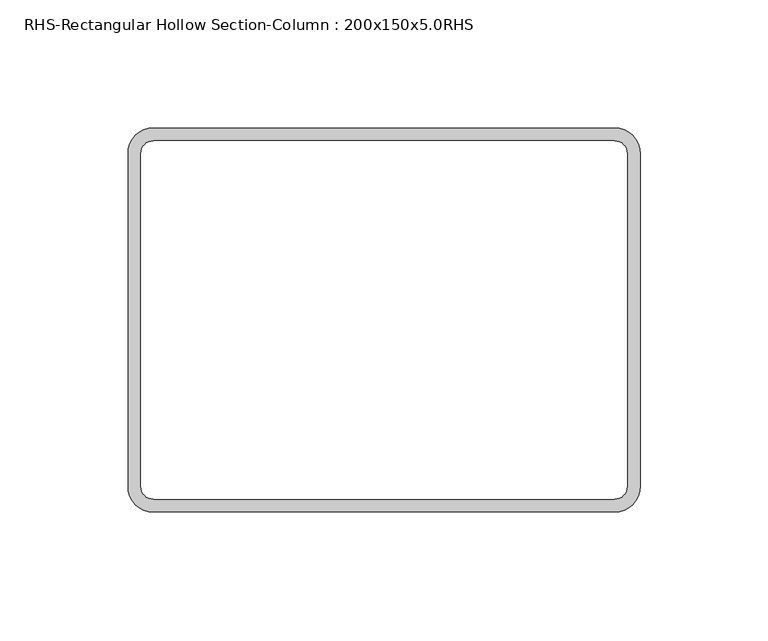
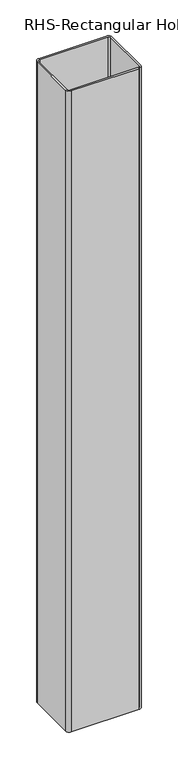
"""IFC4 building model written with IfcOpenShell, lengths in millimetres: column geometry, RHS-Rectangular Hollow Section-Column : 200x150x5.0RHS."""

from ifc_helpers import new_model, si_unit, point, frame, frame_2d, origin, place, context, project, spatial, polyline, circle_curve, trimmed, segment, composite_curve, outline, extrude, source, transform, mapped, element, save


def rhs_rectangular_hollow_section_column_200x150x5_0rhs_b1198f0b(model_context):
    return source(origin(), model_context, "Body", "SweptSolid", [
        extrude(outline(composite_curve([segment(polyline([(90.0, -75.0), (-90.0, -75.0)]), True, "CONTINUOUS"), segment(trimmed(circle_curve(frame_2d((-90.0, -65.0)), 10.0), [point((-90.0, -75.0))], [point((-100.0, -65.0))], False, "CARTESIAN"), True, "CONTINUOUS"), segment(polyline([(-100.0, -65.0), (-100.0, 65.0)]), True, "CONTINUOUS"), segment(trimmed(circle_curve(frame_2d((-90.0, 65.0)), 10.0), [point((-100.0, 65.0))], [point((-90.0, 75.0))], False, "CARTESIAN"), True, "CONTINUOUS"), segment(polyline([(-90.0, 75.0), (90.0, 75.0)]), True, "CONTINUOUS"), segment(trimmed(circle_curve(frame_2d((90.0, 65.0)), 10.0), [point((90.0, 75.0))], [point((100.0, 65.0))], False, "CARTESIAN"), True, "CONTINUOUS"), segment(polyline([(100.0, 65.0), (100.0, -65.0)]), True, "CONTINUOUS"), segment(trimmed(circle_curve(frame_2d((90.0, -65.0)), 10.0), [point((100.0, -65.0))], [point((90.0, -75.0))], False, "CARTESIAN"), True, "CONTINUOUS")], self_intersect=False), holes=[composite_curve([segment(trimmed(circle_curve(frame_2d((90.0, -65.0)), 5.0), [point((90.0, -70.0))], [point((95.0, -65.0))], True, "CARTESIAN"), True, "CONTINUOUS"), segment(polyline([(95.0, -65.0), (95.0, 65.0)]), True, "CONTINUOUS"), segment(trimmed(circle_curve(frame_2d((90.0, 65.0)), 5.0), [point((95.0, 65.0))], [point((90.0, 70.0))], True, "CARTESIAN"), True, "CONTINUOUS"), segment(polyline([(90.0, 70.0), (-90.0, 70.0)]), True, "CONTINUOUS"), segment(trimmed(circle_curve(frame_2d((-90.0, 65.0)), 5.0), [point((-90.0, 70.0))], [point((-95.0, 65.0))], True, "CARTESIAN"), True, "CONTINUOUS"), segment(polyline([(-95.0, 65.0), (-95.0, -65.0)]), True, "CONTINUOUS"), segment(trimmed(circle_curve(frame_2d((-90.0, -65.0)), 5.0), [point((-95.0, -65.0))], [point((-90.0, -70.0))], True, "CARTESIAN"), True, "CONTINUOUS"), segment(polyline([(-90.0, -70.0), (90.0, -70.0)]), True, "CONTINUOUS")], self_intersect=False)]), frame((0.0, 0.0, 22110.0), z_axis=(0.0, 0.0, 1.0), x_axis=(1.0, 0.0, 0.0)), (0.0, 0.0, 1.0), 1800.0),
    ])


if __name__ == "__main__":
    model = new_model("IFC4")
    model_context = context("Model", 3, world=origin())
    ifc_project = project(units=[si_unit("LENGTHUNIT", "METRE", prefix="MILLI")], contexts=[model_context])
    site = spatial("IfcSite", under=ifc_project)
    building = spatial("IfcBuilding", under=site)
    placement = place(None, origin())
    rhs_rectangular_hollow_section_column_200x150x5_0rhs_shape = rhs_rectangular_hollow_section_column_200x150x5_0rhs_b1198f0b(model_context)
    element("IfcColumn", 1, ObjectType="RHS-Rectangular Hollow Section-Column : 200x150x5.0RHS", at=placement, inside=building, context=model_context, shape_type="MappedRepresentation", body=[
        mapped(rhs_rectangular_hollow_section_column_200x150x5_0rhs_shape, transform((0.0, 0.0, 0.0), x_axis=(1.0, 0.0, 0.0), y_axis=(0.0, 1.0, 0.0), z_axis=(0.0, 0.0, 1.0))),
    ])
    save(model, "model.ifc")
